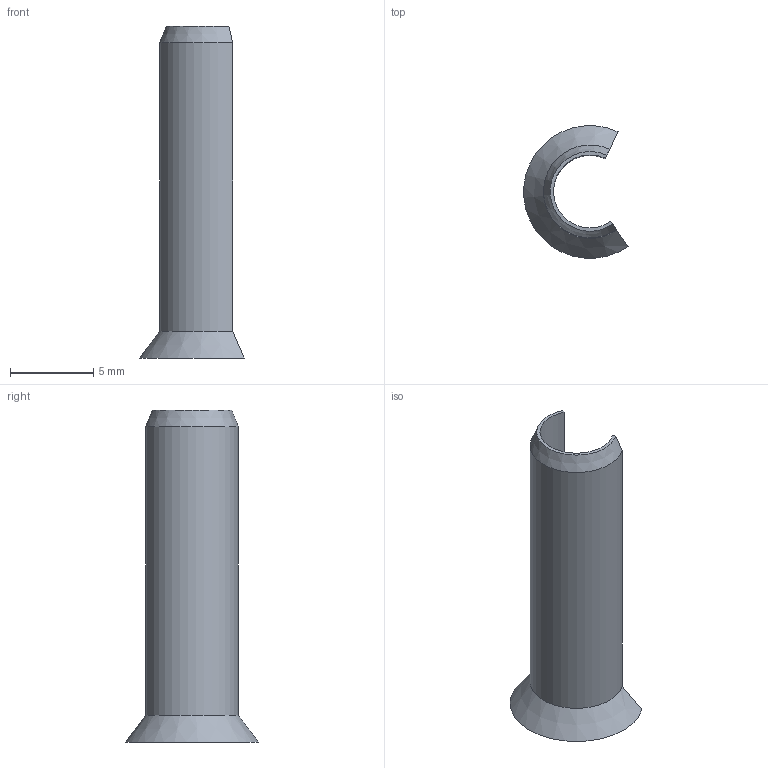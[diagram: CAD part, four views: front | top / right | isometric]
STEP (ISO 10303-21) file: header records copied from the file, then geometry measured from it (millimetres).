
FILE_DESCRIPTION(('FreeCAD Model'),'2;1');
FILE_NAME('Open CASCADE Shape Model','2023-04-06T23:30:35',(''),(''), 'Open CASCADE STEP processor 7.6','FreeCAD','Unknown');
FILE_SCHEMA(('AUTOMOTIVE_DESIGN { 1 0 10303 214 1 1 1 1 }'));
Length unit declared in the file: millimetre
Products named in the file (1): Cut048
Bounding box: 6.28 x 7.97 x 20 mm (x, y, z)
Volume: 136.3 mm3; surface area: 479.4 mm2
Topology: 1 solids, 1 shells, 8 faces, 18 edges, 12 vertices
Faces by surface type: plane 4, cylinder 2, cone 2
Entity records: 250 total; most frequent: DIRECTION 42, CARTESIAN_POINT 39, ORIENTED_EDGE 36, EDGE_CURVE 18, AXIS2_PLACEMENT_3D 15, VERTEX_POINT 12, LINE 12, VECTOR 12
